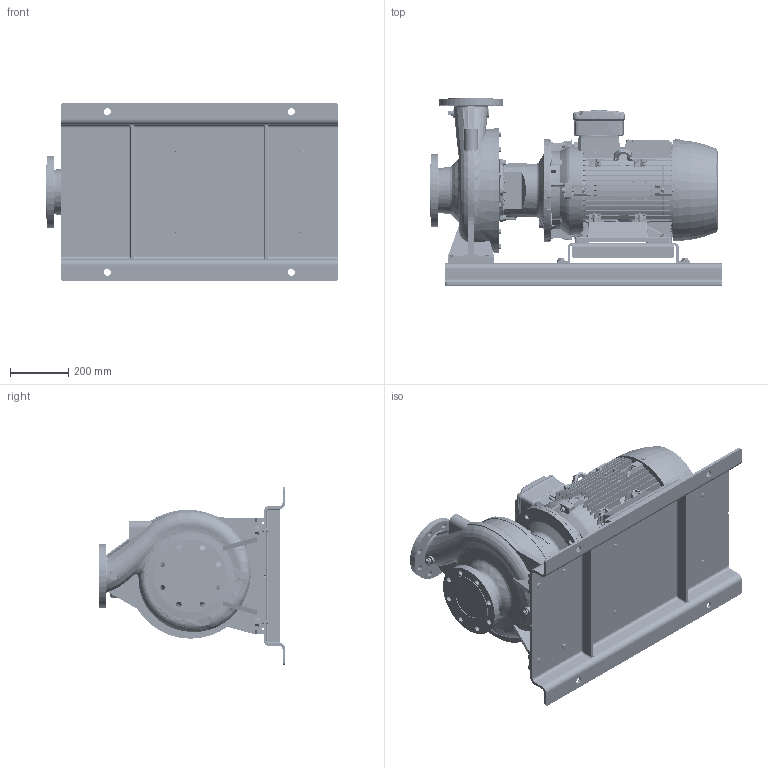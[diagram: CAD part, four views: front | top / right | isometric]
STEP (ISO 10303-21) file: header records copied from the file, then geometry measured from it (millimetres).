
FILE_DESCRIPTION (( 'STEP AP214' ), '1' );
FILE_NAME ('GSD4 100-315_18.5 & 22_(180ML)_W21_BP.STEP', '2026-05-08T05:56:29', ( '' ), ( '' ), 'SwSTEP 2.0', 'SolidWorks 2024', '' );
FILE_SCHEMA (( 'AUTOMOTIVE_DESIGN' ));
Length unit declared in the file: millimetre
Products named in the file (13): Parametric bolt and washer_SFT-A353B; N7S3 GSDA-735 F1-1832948-00; Parametric bolt and washer_SFT-A297B; Parametric bolt_SFT-A305B; Parametric bolt_SFT-A297B; 180M_L ALIE3_W21T_B35; CGS11-5263; 100-315-180M_L_ﾃﾞﾌｫﾙﾄ; GSD4 100-315_18.5 & 22_(180ML)_W21_BP; Parametric bolt_SFT-A353B; Parametric bolt and washer_SFT-A305B; Parametric Flat Washer_M16; Parametric Flat Washer_M12
Assembly tree (22 placements, depth 3):
  GSD4 100-315_18.5 & 22_(180ML)_W21_BP
    100-315-180M_L_ﾃﾞﾌｫﾙﾄ
    N7S3 GSDA-735 F1-1832948-00
    CGS11-5263
    Parametric bolt and washer_SFT-A353B  x4
      Parametric bolt_SFT-A353B
      Parametric Flat Washer_M16
    Parametric bolt and washer_SFT-A297B  x4
      Parametric bolt_SFT-A297B
      Parametric Flat Washer_M12
    Parametric bolt and washer_SFT-A305B  x4
      Parametric bolt_SFT-A305B
      Parametric Flat Washer_M12
    180M_L ALIE3_W21T_B35
Bounding box: 1000 x 640 x 610 mm (x, y, z)
Volume: 82479745.1 mm3; surface area: 5587460.8 mm2
Topology: 60 solids, 60 shells, 6839 faces, 17726 edges, 11459 vertices
Faces by surface type: plane 3992, cylinder 1359, cone 677, bspline 500, torus 295, sphere 16
Entity records: 266140 total; most frequent: CARTESIAN_POINT 118901, ORIENTED_EDGE 32444, DIRECTION 27278, EDGE_CURVE 16222, VERTEX_POINT 10490, VECTOR 10000, LINE 10000, AXIS2_PLACEMENT_3D 8639
